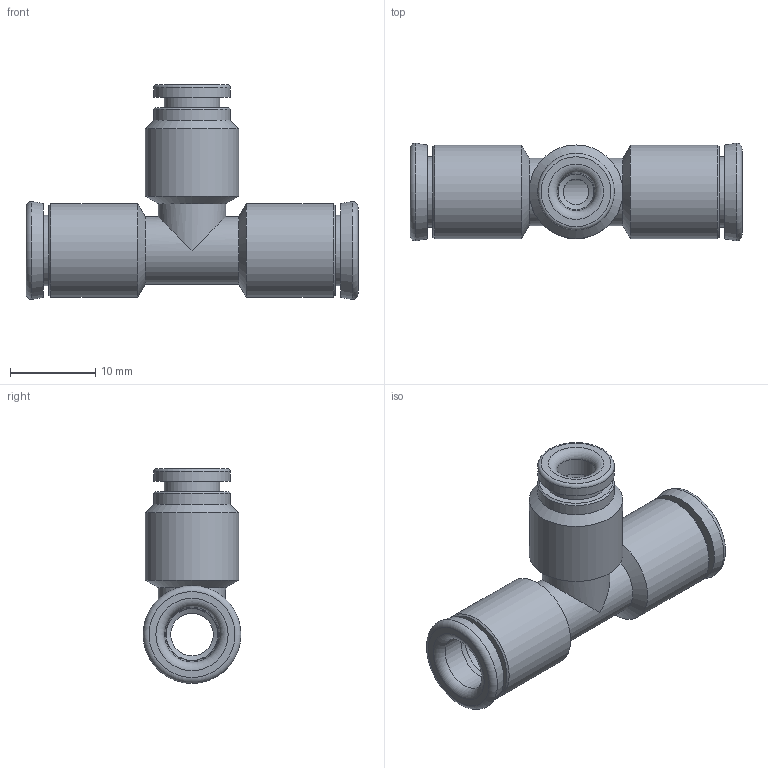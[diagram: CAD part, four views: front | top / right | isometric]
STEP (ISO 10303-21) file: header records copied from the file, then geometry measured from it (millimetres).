
FILE_DESCRIPTION(('Bauteilbeschreibung','HiCAD-Model','HiCAD-STEP-TRANSLATION','Bauteilbeschreibung'),'2;1');
FILE_NAME('B:/ABGLEICH/ZEICHNUNGEN/STEP FÜR INTERNET/STEP/200508_IPSO_05_6_4.STP','2011-07-25T10:34:50+00:00',('Konstrukteur'),('Konstrukteur Firma GmbH'),' HiCAD neXt 2008, Step 3.1.1401.2J ','HiCAD neXt 2008','confidential');
FILE_SCHEMA(('AUTOMOTIVE_DESIGN { 1 2 10303 214 0 1 1 1 }'));
Length unit declared in the file: millimetre
Products named in the file (5): A00508_IPSO_05_6_4; DR6_1; DR601; DR4_1; R200508
Assembly tree (4 placements, depth 2):
  A00508_IPSO_05_6_4
    DR6_1
    DR601
    DR4_1
    R200508
Bounding box: 39 x 11.5 x 25.25 mm (x, y, z)
Volume: 2460.4 mm3; surface area: 4194.5 mm2
Topology: 4 solids, 4 shells, 85 faces, 169 edges, 99 vertices
Faces by surface type: cylinder 30, cone 27, plane 16, torus 12
Full cylindrical faces by diameter (mm): 3 x1, 4.2 x2, 4.5 x1, 5 x2, 6.1 x2, 6.2 x2, 6.5 x2, 6.55 x1, 6.6 x1, 7 x2, 7.2 x1, 7.9 x2, 8.3 x2, 8.5 x2, 9 x4, 11 x3
Entity records: 2971 total; most frequent: CARTESIAN_POINT 932, DIRECTION 358, AXIS2_PLACEMENT_3D 179, ORIENTED_EDGE 174, EDGE_LOOP 172, COLOUR_RGB 90, PRESENTATION_STYLE_ASSIGNMENT 90, EDGE_CURVE 87
